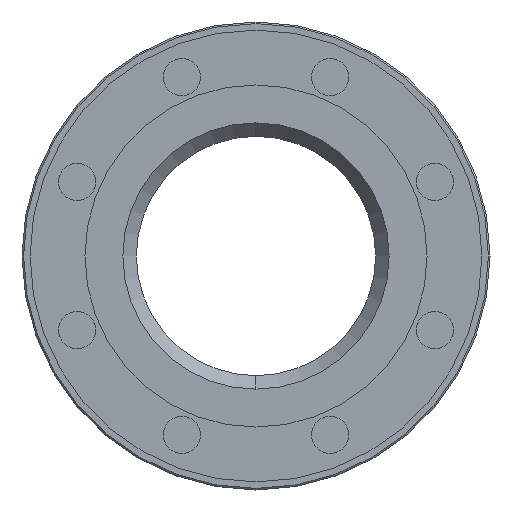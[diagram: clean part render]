
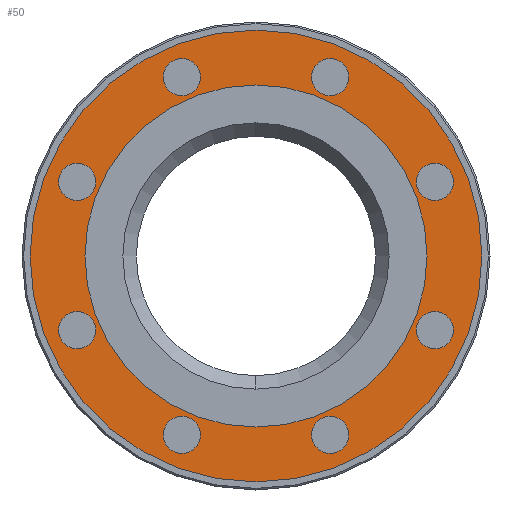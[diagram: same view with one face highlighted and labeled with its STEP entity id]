
A CAD part, left-side view. The second image highlights one B-rep face of the part: STEP entity #50.
In plain terms, the highlighted planar face has unit normal (-1, 0, 0).
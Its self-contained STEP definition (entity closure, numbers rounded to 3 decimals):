
#50=ADVANCED_FACE('',(#285,#286,#287,#288,#289,#290,#291,#292,#293,#294),#284,.F.);
#284=PLANE('',#1494);
#285=FACE_OUTER_BOUND('',#1495,.T.);
#286=FACE_BOUND('',#1496,.T.);
#287=FACE_BOUND('',#1497,.T.);
#288=FACE_BOUND('',#1498,.T.);
#289=FACE_BOUND('',#1499,.T.);
#290=FACE_BOUND('',#1500,.T.);
#291=FACE_BOUND('',#1501,.T.);
#292=FACE_BOUND('',#1502,.T.);
#293=FACE_BOUND('',#1503,.T.);
#294=FACE_BOUND('',#1504,.T.);
#1491=CARTESIAN_POINT('',(2.,-252.487,150.));
#1492=DIRECTION('',(1.,0.,0.));
#1493=DIRECTION('',(0.,0.,-1.));
#1494=AXIS2_PLACEMENT_3D('',#1491,#1492,#1493);
#1495=EDGE_LOOP('',(#2514,#2515));
#1496=EDGE_LOOP('',(#2516,#2517));
#1497=EDGE_LOOP('',(#2518,#2519));
#1498=EDGE_LOOP('',(#2520,#2521));
#1499=EDGE_LOOP('',(#2522,#2523));
#1500=EDGE_LOOP('',(#2524,#2525));
#1501=EDGE_LOOP('',(#2526,#2527));
#1502=EDGE_LOOP('',(#2528,#2529));
#1503=EDGE_LOOP('',(#2530,#2531));
#1504=EDGE_LOOP('',(#2532,#2533));
#2514=ORIENTED_EDGE('',*,*,#3090,.T.);
#2515=ORIENTED_EDGE('',*,*,#3091,.T.);
#2516=ORIENTED_EDGE('',*,*,#3092,.F.);
#2517=ORIENTED_EDGE('',*,*,#3093,.F.);
#2518=ORIENTED_EDGE('',*,*,#3094,.F.);
#2519=ORIENTED_EDGE('',*,*,#3095,.F.);
#2520=ORIENTED_EDGE('',*,*,#3096,.F.);
#2521=ORIENTED_EDGE('',*,*,#3097,.F.);
#2522=ORIENTED_EDGE('',*,*,#3098,.F.);
#2523=ORIENTED_EDGE('',*,*,#3099,.F.);
#2524=ORIENTED_EDGE('',*,*,#3100,.F.);
#2525=ORIENTED_EDGE('',*,*,#3101,.F.);
#2526=ORIENTED_EDGE('',*,*,#3102,.F.);
#2527=ORIENTED_EDGE('',*,*,#3103,.F.);
#2528=ORIENTED_EDGE('',*,*,#3104,.F.);
#2529=ORIENTED_EDGE('',*,*,#3105,.F.);
#2530=ORIENTED_EDGE('',*,*,#3106,.F.);
#2531=ORIENTED_EDGE('',*,*,#3107,.F.);
#2532=ORIENTED_EDGE('',*,*,#3108,.F.);
#2533=ORIENTED_EDGE('',*,*,#3109,.F.);
#3090=EDGE_CURVE('',#3810,#3811,#3812,.T.);
#3091=EDGE_CURVE('',#3811,#3810,#3818,.T.);
#3092=EDGE_CURVE('',#3824,#3825,#3826,.T.);
#3093=EDGE_CURVE('',#3825,#3824,#3832,.T.);
#3094=EDGE_CURVE('',#3838,#3839,#3840,.T.);
#3095=EDGE_CURVE('',#3839,#3838,#3846,.T.);
#3096=EDGE_CURVE('',#3852,#3853,#3854,.T.);
#3097=EDGE_CURVE('',#3853,#3852,#3860,.T.);
#3098=EDGE_CURVE('',#3866,#3867,#3868,.T.);
#3099=EDGE_CURVE('',#3867,#3866,#3874,.T.);
#3100=EDGE_CURVE('',#3880,#3881,#3882,.T.);
#3101=EDGE_CURVE('',#3881,#3880,#3888,.T.);
#3102=EDGE_CURVE('',#3894,#3895,#3896,.T.);
#3103=EDGE_CURVE('',#3895,#3894,#3902,.T.);
#3104=EDGE_CURVE('',#3908,#3909,#3910,.T.);
#3105=EDGE_CURVE('',#3909,#3908,#3916,.T.);
#3106=EDGE_CURVE('',#3922,#3923,#3924,.T.);
#3107=EDGE_CURVE('',#3923,#3922,#3930,.T.);
#3108=EDGE_CURVE('',#3936,#3937,#3938,.T.);
#3109=EDGE_CURVE('',#3937,#3936,#3944,.T.);
#3810=VERTEX_POINT('',#5567);
#3811=VERTEX_POINT('',#5568);
#3812=CIRCLE('',#5572,140.);
#3818=CIRCLE('',#5576,140.);
#3824=VERTEX_POINT('',#5577);
#3825=VERTEX_POINT('',#5578);
#3826=CIRCLE('',#5582,11.5);
#3832=CIRCLE('',#5586,11.5);
#3838=VERTEX_POINT('',#5587);
#3839=VERTEX_POINT('',#5588);
#3840=CIRCLE('',#5592,11.5);
#3846=CIRCLE('',#5596,11.5);
#3852=VERTEX_POINT('',#5597);
#3853=VERTEX_POINT('',#5598);
#3854=CIRCLE('',#5602,11.5);
#3860=CIRCLE('',#5606,11.5);
#3866=VERTEX_POINT('',#5607);
#3867=VERTEX_POINT('',#5608);
#3868=CIRCLE('',#5612,11.5);
#3874=CIRCLE('',#5616,11.5);
#3880=VERTEX_POINT('',#5617);
#3881=VERTEX_POINT('',#5618);
#3882=CIRCLE('',#5622,11.5);
#3888=CIRCLE('',#5626,11.5);
#3894=VERTEX_POINT('',#5627);
#3895=VERTEX_POINT('',#5628);
#3896=CIRCLE('',#5632,11.5);
#3902=CIRCLE('',#5636,11.5);
#3908=VERTEX_POINT('',#5637);
#3909=VERTEX_POINT('',#5638);
#3910=CIRCLE('',#5642,11.5);
#3916=CIRCLE('',#5646,11.5);
#3922=VERTEX_POINT('',#5647);
#3923=VERTEX_POINT('',#5648);
#3924=CIRCLE('',#5652,106.);
#3930=CIRCLE('',#5656,106.);
#3936=VERTEX_POINT('',#5657);
#3937=VERTEX_POINT('',#5658);
#3938=CIRCLE('',#5662,11.5);
#3944=CIRCLE('',#5666,11.5);
#5567=CARTESIAN_POINT('',(2.,0.,140.));
#5568=CARTESIAN_POINT('',(2.,0.,-140.));
#5569=CARTESIAN_POINT('',(2.,0.,0.));
#5570=DIRECTION('',(-1.,0.,0.));
#5571=DIRECTION('',(0.,0.,1.));
#5572=AXIS2_PLACEMENT_3D('',#5569,#5570,#5571);
#5573=CARTESIAN_POINT('',(2.,0.,0.));
#5574=DIRECTION('',(-1.,0.,0.));
#5575=DIRECTION('',(0.,0.,1.));
#5576=AXIS2_PLACEMENT_3D('',#5573,#5574,#5575);
#5577=CARTESIAN_POINT('',(2.,-110.866,57.422));
#5578=CARTESIAN_POINT('',(2.,-110.866,34.422));
#5579=CARTESIAN_POINT('',(2.,-110.866,45.922));
#5580=DIRECTION('',(-1.,0.,0.));
#5581=DIRECTION('',(0.,0.,-1.));
#5582=AXIS2_PLACEMENT_3D('',#5579,#5580,#5581);
#5583=CARTESIAN_POINT('',(2.,-110.866,45.922));
#5584=DIRECTION('',(-1.,0.,0.));
#5585=DIRECTION('',(0.,0.,-1.));
#5586=AXIS2_PLACEMENT_3D('',#5583,#5584,#5585);
#5587=CARTESIAN_POINT('',(2.,-110.866,-34.422));
#5588=CARTESIAN_POINT('',(2.,-110.866,-57.422));
#5589=CARTESIAN_POINT('',(2.,-110.866,-45.922));
#5590=DIRECTION('',(-1.,0.,0.));
#5591=DIRECTION('',(0.,0.,-1.));
#5592=AXIS2_PLACEMENT_3D('',#5589,#5590,#5591);
#5593=CARTESIAN_POINT('',(2.,-110.866,-45.922));
#5594=DIRECTION('',(-1.,0.,0.));
#5595=DIRECTION('',(0.,0.,-1.));
#5596=AXIS2_PLACEMENT_3D('',#5593,#5594,#5595);
#5597=CARTESIAN_POINT('',(2.,-45.922,-99.366));
#5598=CARTESIAN_POINT('',(2.,-45.922,-122.366));
#5599=CARTESIAN_POINT('',(2.,-45.922,-110.866));
#5600=DIRECTION('',(-1.,0.,0.));
#5601=DIRECTION('',(0.,0.,-1.));
#5602=AXIS2_PLACEMENT_3D('',#5599,#5600,#5601);
#5603=CARTESIAN_POINT('',(2.,-45.922,-110.866));
#5604=DIRECTION('',(-1.,0.,0.));
#5605=DIRECTION('',(0.,0.,-1.));
#5606=AXIS2_PLACEMENT_3D('',#5603,#5604,#5605);
#5607=CARTESIAN_POINT('',(2.,45.922,-99.366));
#5608=CARTESIAN_POINT('',(2.,45.922,-122.366));
#5609=CARTESIAN_POINT('',(2.,45.922,-110.866));
#5610=DIRECTION('',(-1.,0.,0.));
#5611=DIRECTION('',(0.,0.,-1.));
#5612=AXIS2_PLACEMENT_3D('',#5609,#5610,#5611);
#5613=CARTESIAN_POINT('',(2.,45.922,-110.866));
#5614=DIRECTION('',(-1.,0.,0.));
#5615=DIRECTION('',(0.,0.,-1.));
#5616=AXIS2_PLACEMENT_3D('',#5613,#5614,#5615);
#5617=CARTESIAN_POINT('',(2.,110.866,-34.422));
#5618=CARTESIAN_POINT('',(2.,110.866,-57.422));
#5619=CARTESIAN_POINT('',(2.,110.866,-45.922));
#5620=DIRECTION('',(-1.,0.,0.));
#5621=DIRECTION('',(0.,0.,-1.));
#5622=AXIS2_PLACEMENT_3D('',#5619,#5620,#5621);
#5623=CARTESIAN_POINT('',(2.,110.866,-45.922));
#5624=DIRECTION('',(-1.,0.,0.));
#5625=DIRECTION('',(0.,0.,-1.));
#5626=AXIS2_PLACEMENT_3D('',#5623,#5624,#5625);
#5627=CARTESIAN_POINT('',(2.,110.866,57.422));
#5628=CARTESIAN_POINT('',(2.,110.866,34.422));
#5629=CARTESIAN_POINT('',(2.,110.866,45.922));
#5630=DIRECTION('',(-1.,0.,0.));
#5631=DIRECTION('',(0.,0.,-1.));
#5632=AXIS2_PLACEMENT_3D('',#5629,#5630,#5631);
#5633=CARTESIAN_POINT('',(2.,110.866,45.922));
#5634=DIRECTION('',(-1.,0.,0.));
#5635=DIRECTION('',(0.,0.,-1.));
#5636=AXIS2_PLACEMENT_3D('',#5633,#5634,#5635);
#5637=CARTESIAN_POINT('',(2.,45.922,122.366));
#5638=CARTESIAN_POINT('',(2.,45.922,99.366));
#5639=CARTESIAN_POINT('',(2.,45.922,110.866));
#5640=DIRECTION('',(-1.,0.,0.));
#5641=DIRECTION('',(0.,0.,-1.));
#5642=AXIS2_PLACEMENT_3D('',#5639,#5640,#5641);
#5643=CARTESIAN_POINT('',(2.,45.922,110.866));
#5644=DIRECTION('',(-1.,0.,0.));
#5645=DIRECTION('',(0.,0.,-1.));
#5646=AXIS2_PLACEMENT_3D('',#5643,#5644,#5645);
#5647=CARTESIAN_POINT('',(2.,0.,-106.));
#5648=CARTESIAN_POINT('',(2.,0.,106.));
#5649=CARTESIAN_POINT('',(2.,0.,0.));
#5650=DIRECTION('',(-1.,0.,0.));
#5651=DIRECTION('',(0.,0.,1.));
#5652=AXIS2_PLACEMENT_3D('',#5649,#5650,#5651);
#5653=CARTESIAN_POINT('',(2.,0.,0.));
#5654=DIRECTION('',(-1.,0.,0.));
#5655=DIRECTION('',(0.,0.,1.));
#5656=AXIS2_PLACEMENT_3D('',#5653,#5654,#5655);
#5657=CARTESIAN_POINT('',(2.,-45.922,122.366));
#5658=CARTESIAN_POINT('',(2.,-45.922,99.366));
#5659=CARTESIAN_POINT('',(2.,-45.922,110.866));
#5660=DIRECTION('',(-1.,0.,0.));
#5661=DIRECTION('',(0.,0.,-1.));
#5662=AXIS2_PLACEMENT_3D('',#5659,#5660,#5661);
#5663=CARTESIAN_POINT('',(2.,-45.922,110.866));
#5664=DIRECTION('',(-1.,0.,0.));
#5665=DIRECTION('',(0.,0.,-1.));
#5666=AXIS2_PLACEMENT_3D('',#5663,#5664,#5665);
